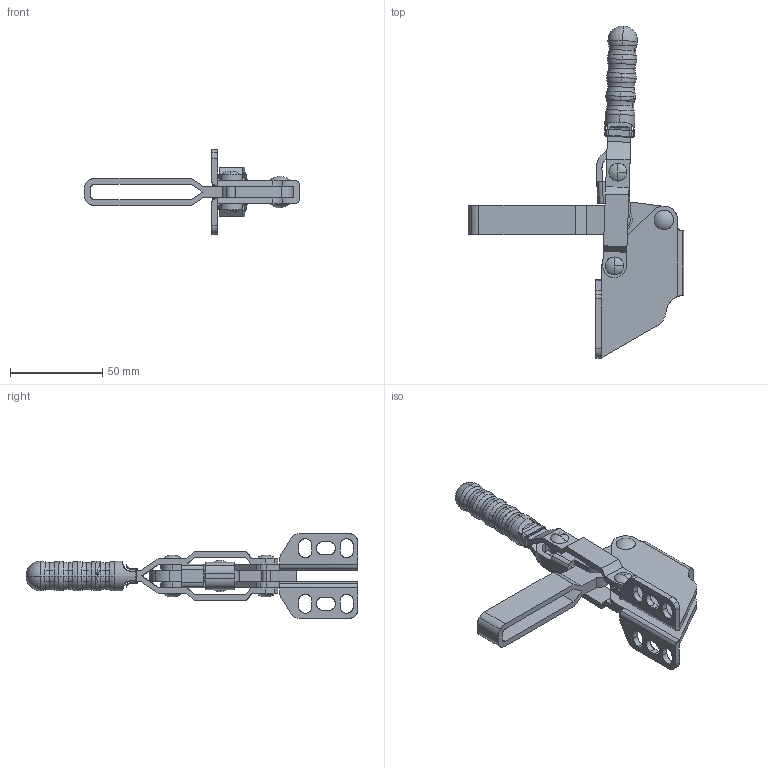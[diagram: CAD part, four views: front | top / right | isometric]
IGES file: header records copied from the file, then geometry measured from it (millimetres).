
Start section: Comment
Global section: file name: 12130sm.igs; native system:  By Spatial Corp.; preprocessor: XPlus PS/IGES 3.0; author: Author; organization: Title; date: 20050216.170802; units: inch
Bounding box: 116.65 x 179.51 x 46 mm (x, y, z)
Surface area: 39803.7 mm2 (no closed solid volume)
Topology: 0 solids, 0 shells, 341 faces, 1826 edges, 1752 vertices
Faces by surface type: revolution 220, extrusion 119, bspline 2
